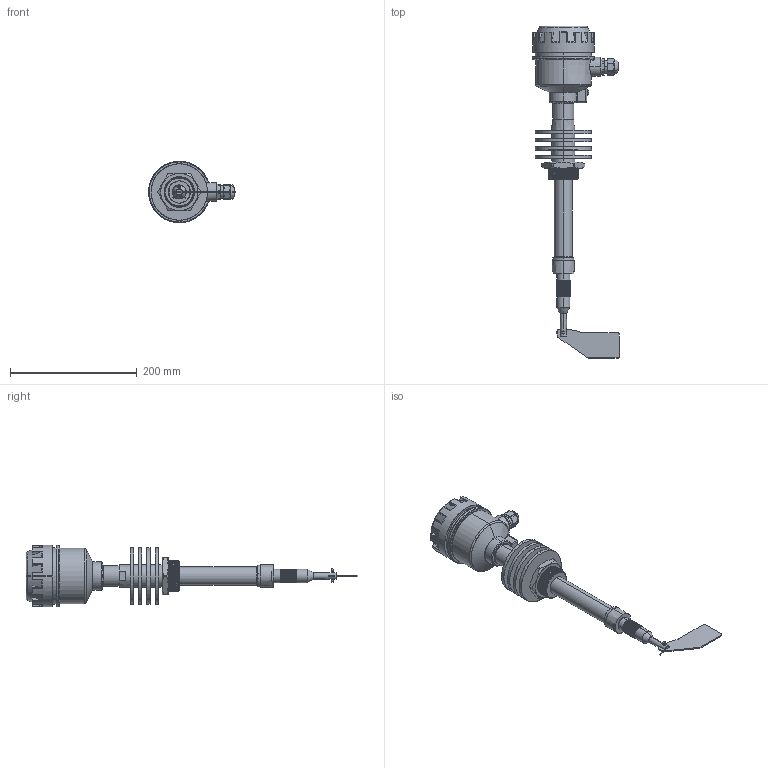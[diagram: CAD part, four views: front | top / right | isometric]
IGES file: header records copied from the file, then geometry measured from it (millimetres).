
Start section: SolidWorks IGES file using analytic representation for surfaces
Global section: file name: C:\Users\Äîì\Desktop\Äàò÷èêè ìîäåëè\IL-SAA-N-HT600\Äëÿ Êîìïàñà\IL-SAA-N-HT600 ìóôòîâàÿ ëîïàñòü - ð.IGS; native system: SolidWorks 2020; preprocessor: SolidWorks 2020; author: Äîì; date: 201224.144802; units: millimetre
Bounding box: 137 x 524.7 x 97 mm (x, y, z)
Surface area: 173463.7 mm2 (no closed solid volume)
Topology: 0 solids, 0 shells, 615 faces, 8633 edges, 8612 vertices
Faces by surface type: bspline 308, revolution 307
